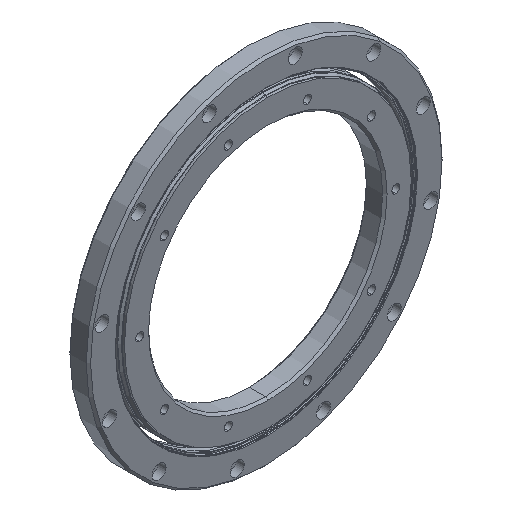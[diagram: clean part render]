
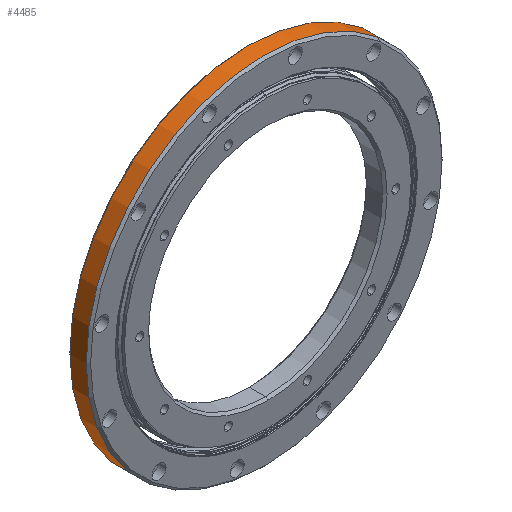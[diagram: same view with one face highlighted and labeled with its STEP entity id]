
A CAD part, isometric view. The second image highlights one B-rep face of the part: STEP entity #4485.
In plain terms, the highlighted cylindrical face has radius 120.65 mm (diameter 241.3 mm), a partial arc.
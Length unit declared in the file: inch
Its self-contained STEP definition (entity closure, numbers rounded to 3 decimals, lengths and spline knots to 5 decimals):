
#39 = ORIENTED_EDGE ( 'NONE', *, *, #4366, .F. ) ;
#254 = FACE_OUTER_BOUND ( 'NONE', #1167, .T. ) ;
#273 = VERTEX_POINT ( 'NONE', #977 ) ;
#492 = VERTEX_POINT ( 'NONE', #5108 ) ;
#544 = DIRECTION ( 'NONE',  ( 0., -1., 0. ) ) ;
#933 = ORIENTED_EDGE ( 'NONE', *, *, #1636, .T. ) ;
#954 = VECTOR ( 'NONE', #544, 39.37008 ) ;
#977 = CARTESIAN_POINT ( 'NONE',  ( 0., 0.5315, 4.75 ) ) ;
#979 = EDGE_CURVE ( 'NONE', #492, #5089, #2568, .T. ) ;
#1167 = EDGE_LOOP ( 'NONE', ( #39, #4497, #933, #1538 ) ) ;
#1290 = DIRECTION ( 'NONE',  ( 0., 0., -1. ) ) ;
#1294 = CARTESIAN_POINT ( 'NONE',  ( 0., 0.5315, -4.75 ) ) ;
#1487 = DIRECTION ( 'NONE',  ( 0., -1., 0. ) ) ;
#1490 = DIRECTION ( 'NONE',  ( 0., -1., 0. ) ) ;
#1538 = ORIENTED_EDGE ( 'NONE', *, *, #979, .T. ) ;
#1636 = EDGE_CURVE ( 'NONE', #3147, #492, #4496, .T. ) ;
#1791 = DIRECTION ( 'NONE',  ( 0., 1., 0. ) ) ;
#1927 = DIRECTION ( 'NONE',  ( 0., 0., -1. ) ) ;
#2074 = CARTESIAN_POINT ( 'NONE',  ( 0., 0.5315, 0. ) ) ;
#2133 = CARTESIAN_POINT ( 'NONE',  ( 0., 0.09843, 0. ) ) ;
#2339 = CARTESIAN_POINT ( 'NONE',  ( 0., 0., 0. ) ) ;
#2517 = DIRECTION ( 'NONE',  ( 0., 0., -1. ) ) ;
#2568 = CIRCLE ( 'NONE', #3514, 4.75 ) ;
#2869 = AXIS2_PLACEMENT_3D ( 'NONE', #2339, #1487, #1927 ) ;
#3145 = CARTESIAN_POINT ( 'NONE',  ( 0., 0., 4.75 ) ) ;
#3147 = VERTEX_POINT ( 'NONE', #1294 ) ;
#3258 = LINE ( 'NONE', #3145, #954 ) ;
#3514 = AXIS2_PLACEMENT_3D ( 'NONE', #2133, #1791, #1290 ) ;
#3591 = CYLINDRICAL_SURFACE ( 'NONE', #2869, 4.75 ) ;
#3862 = CARTESIAN_POINT ( 'NONE',  ( 0., 0.09843, 4.75 ) ) ;
#3952 = CIRCLE ( 'NONE', #5264, 4.75 ) ;
#4077 = CARTESIAN_POINT ( 'NONE',  ( 0., 0., -4.75 ) ) ;
#4363 = VECTOR ( 'NONE', #1490, 39.37008 ) ;
#4366 = EDGE_CURVE ( 'NONE', #273, #5089, #3258, .T. ) ;
#4485 = ADVANCED_FACE ( 'NONE', ( #254 ), #3591, .T. ) ;
#4496 = LINE ( 'NONE', #4077, #4363 ) ;
#4497 = ORIENTED_EDGE ( 'NONE', *, *, #5487, .T. ) ;
#5075 = DIRECTION ( 'NONE',  ( 0., -1., 0. ) ) ;
#5089 = VERTEX_POINT ( 'NONE', #3862 ) ;
#5108 = CARTESIAN_POINT ( 'NONE',  ( 0., 0.09843, -4.75 ) ) ;
#5264 = AXIS2_PLACEMENT_3D ( 'NONE', #2074, #5075, #2517 ) ;
#5487 = EDGE_CURVE ( 'NONE', #273, #3147, #3952, .T. ) ;
